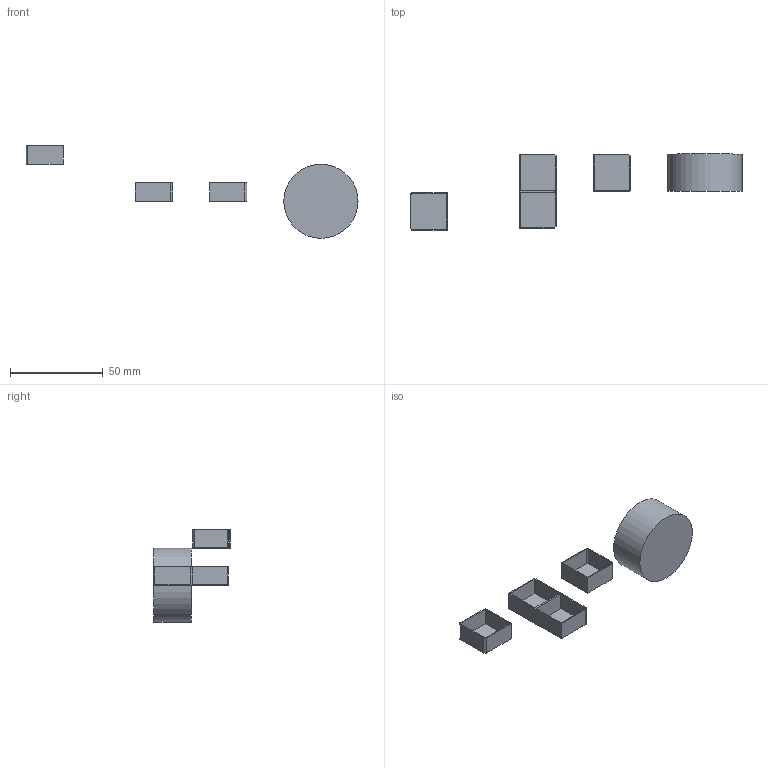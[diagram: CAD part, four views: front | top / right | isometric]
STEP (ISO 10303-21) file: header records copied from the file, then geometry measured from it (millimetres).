
FILE_DESCRIPTION(/* description */ ('STEP AP214','CAx-IF Rec.Pracs.---User Defined Attributes---1.5---2016-08-15'),/* implementation_level */ '2;1');
FILE_NAME(/* name */ '6ac828c05e2bd90b3221baff',/* time_stamp */ '2026-10-08T23:35:28Z',/* author */ (''),/* organization */ (''),/* preprocessor_version */ 'ST-DEVELOPER v20',/* originating_system */ 'ONSHAPE BY PTC INC, 1.221',/* authorisation */ ' ');
FILE_SCHEMA (('AUTOMOTIVE_DESIGN {1 0 10303 214 3 1 1}'));
Length unit declared in the file: millimetre
Products named in the file (4): Part 2; Part 3; Part 4; Part 1
Bounding box: 179 x 41 x 50 mm (x, y, z)
Volume: 27397.7 mm3; surface area: 13864.3 mm2
Topology: 4 solids, 4 shells, 58 faces, 138 edges, 92 vertices
Faces by surface type: plane 49, cylinder 9
Full cylindrical faces by diameter (mm): 40 x1
Entity records: 1761 total; most frequent: CARTESIAN_POINT 291, DIRECTION 279, ORIENTED_EDGE 274, EDGE_CURVE 137, LINE 119, VECTOR 119, VERTEX_POINT 92, AXIS2_PLACEMENT_3D 80
